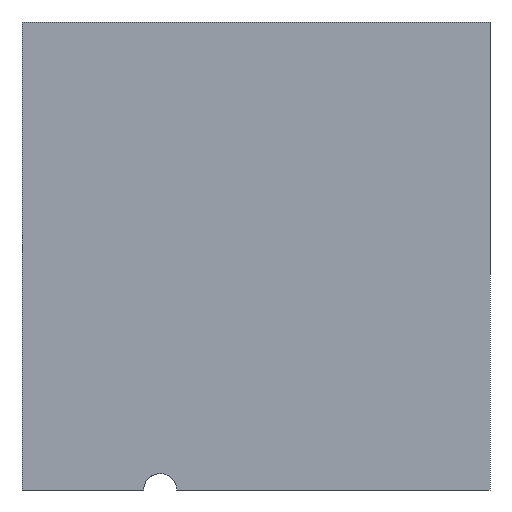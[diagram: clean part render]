
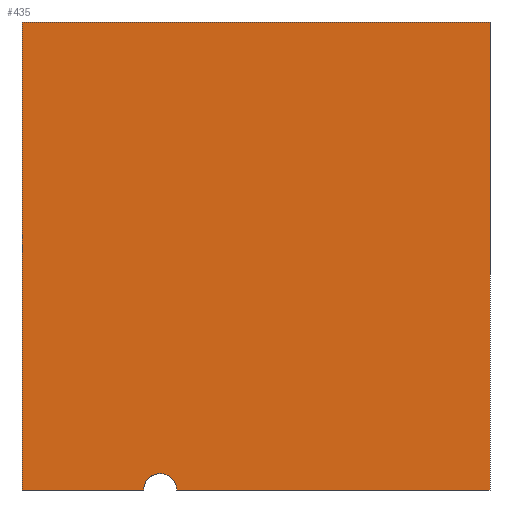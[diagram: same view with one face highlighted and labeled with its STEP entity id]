
A CAD part, front view. The second image highlights one B-rep face of the part: STEP entity #435.
In plain terms, the highlighted planar face has unit normal (0, -1, 0).
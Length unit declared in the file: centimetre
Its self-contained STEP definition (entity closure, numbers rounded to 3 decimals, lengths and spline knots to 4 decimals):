
#40 = LINE ( 'NONE', #452, #322 ) ;
#42 = DIRECTION ( 'NONE',  ( 0., 1., 0. ) ) ;
#46 = CARTESIAN_POINT ( 'NONE',  ( 0., 0., 0. ) ) ;
#53 = DIRECTION ( 'NONE',  ( 0., 0., -1. ) ) ;
#58 = VERTEX_POINT ( 'NONE', #846 ) ;
#88 = VERTEX_POINT ( 'NONE', #324 ) ;
#126 = EDGE_CURVE ( 'NONE', #421, #458, #976, .T. ) ;
#200 = EDGE_CURVE ( 'NONE', #458, #58, #40, .T. ) ;
#207 = ORIENTED_EDGE ( 'NONE', *, *, #126, .F. ) ;
#239 = CIRCLE ( 'NONE', #883, 35.4183 ) ;
#247 = EDGE_CURVE ( 'NONE', #1089, #720, #959, .T. ) ;
#248 = DIRECTION ( 'NONE',  ( 0., 0., -1. ) ) ;
#255 = DIRECTION ( 'NONE',  ( 1., 0., 0. ) ) ;
#322 = VECTOR ( 'NONE', #854, 100. ) ;
#324 = CARTESIAN_POINT ( 'NONE',  ( 330.6099, 0., 0. ) ) ;
#358 = CARTESIAN_POINT ( 'NONE',  ( 295.1916, 0., 0. ) ) ;
#421 = VERTEX_POINT ( 'NONE', #1070 ) ;
#435 = ADVANCED_FACE ( 'NONE', ( #1165 ), #1156, .F. ) ;
#447 = CARTESIAN_POINT ( 'NONE',  ( 1000., 0., 1000. ) ) ;
#452 = CARTESIAN_POINT ( 'NONE',  ( 1000., 0., 1000. ) ) ;
#458 = VERTEX_POINT ( 'NONE', #447 ) ;
#513 = EDGE_LOOP ( 'NONE', ( #1301, #1078, #602, #1003, #207, #1137 ) ) ;
#601 = CARTESIAN_POINT ( 'NONE',  ( 0., 0., 0. ) ) ;
#602 = ORIENTED_EDGE ( 'NONE', *, *, #1277, .T. ) ;
#629 = VECTOR ( 'NONE', #53, 100. ) ;
#675 = CARTESIAN_POINT ( 'NONE',  ( 0., 0., 0. ) ) ;
#720 = VERTEX_POINT ( 'NONE', #1035 ) ;
#745 = CARTESIAN_POINT ( 'NONE',  ( 0., 0., 1000. ) ) ;
#761 = DIRECTION ( 'NONE',  ( 1., 0., 0. ) ) ;
#765 = AXIS2_PLACEMENT_3D ( 'NONE', #1274, #42, #1267 ) ;
#846 = CARTESIAN_POINT ( 'NONE',  ( 1000., 0., 0. ) ) ;
#854 = DIRECTION ( 'NONE',  ( 0., 0., -1. ) ) ;
#855 = EDGE_CURVE ( 'NONE', #88, #720, #239, .T. ) ;
#864 = DIRECTION ( 'NONE',  ( 1., 0., 0. ) ) ;
#878 = LINE ( 'NONE', #675, #1310 ) ;
#883 = AXIS2_PLACEMENT_3D ( 'NONE', #358, #1049, #248 ) ;
#940 = EDGE_CURVE ( 'NONE', #421, #1089, #1041, .T. ) ;
#959 = LINE ( 'NONE', #46, #1086 ) ;
#976 = LINE ( 'NONE', #745, #1072 ) ;
#1003 = ORIENTED_EDGE ( 'NONE', *, *, #200, .F. ) ;
#1035 = CARTESIAN_POINT ( 'NONE',  ( 259.7734, 0., 0. ) ) ;
#1041 = LINE ( 'NONE', #1176, #629 ) ;
#1049 = DIRECTION ( 'NONE',  ( 0., -1., 0. ) ) ;
#1070 = CARTESIAN_POINT ( 'NONE',  ( 0., 0., 1000. ) ) ;
#1072 = VECTOR ( 'NONE', #761, 100. ) ;
#1078 = ORIENTED_EDGE ( 'NONE', *, *, #855, .F. ) ;
#1086 = VECTOR ( 'NONE', #864, 100. ) ;
#1089 = VERTEX_POINT ( 'NONE', #601 ) ;
#1137 = ORIENTED_EDGE ( 'NONE', *, *, #940, .T. ) ;
#1156 = PLANE ( 'NONE',  #765 ) ;
#1165 = FACE_OUTER_BOUND ( 'NONE', #513, .T. ) ;
#1176 = CARTESIAN_POINT ( 'NONE',  ( 0., 0., 1000. ) ) ;
#1267 = DIRECTION ( 'NONE',  ( 0., 0., 1. ) ) ;
#1274 = CARTESIAN_POINT ( 'NONE',  ( 0., 0., 1000. ) ) ;
#1277 = EDGE_CURVE ( 'NONE', #88, #58, #878, .T. ) ;
#1301 = ORIENTED_EDGE ( 'NONE', *, *, #247, .T. ) ;
#1310 = VECTOR ( 'NONE', #255, 100. ) ;
